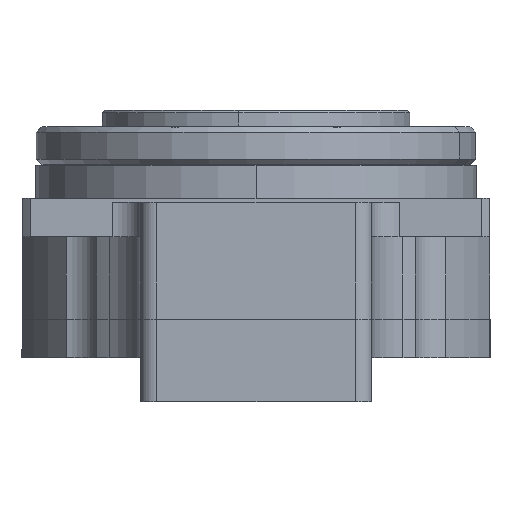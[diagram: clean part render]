
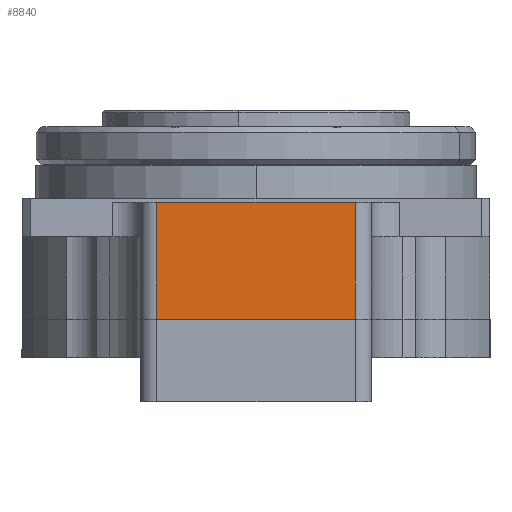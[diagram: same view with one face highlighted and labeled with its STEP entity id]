
A CAD part, left-side view. The second image highlights one B-rep face of the part: STEP entity #8840.
In plain terms, the highlighted planar face has unit normal (-1, 0, 0).
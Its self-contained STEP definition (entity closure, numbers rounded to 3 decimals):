
#684 = VERTEX_POINT ( 'NONE', #18039 ) ;
#685 = VERTEX_POINT ( 'NONE', #18040 ) ;
#690 = VERTEX_POINT ( 'NONE', #18045 ) ;
#691 = VERTEX_POINT ( 'NONE', #18046 ) ;
#1020 = EDGE_LOOP ( 'NONE', ( #8617, #8619, #8620, #8621 ) ) ;
#8617 = ORIENTED_EDGE ( 'NONE', *, *, #8874, .T. ) ;
#8619 = ORIENTED_EDGE ( 'NONE', *, *, #8866, .T. ) ;
#8620 = ORIENTED_EDGE ( 'NONE', *, *, #8876, .T. ) ;
#8621 = ORIENTED_EDGE ( 'NONE', *, *, #8878, .F. ) ;
#8840 = ADVANCED_FACE ( 'NONE', ( #37166 ), #38175, .T. ) ;
#8866 = EDGE_CURVE ( 'NONE', #685, #684, #38258, .T. ) ;
#8874 = EDGE_CURVE ( 'NONE', #690, #685, #38282, .T. ) ;
#8876 = EDGE_CURVE ( 'NONE', #684, #691, #38288, .T. ) ;
#8878 = EDGE_CURVE ( 'NONE', #690, #691, #38294, .T. ) ;
#18039 = CARTESIAN_POINT ( 'NONE',  ( -76.04, 18., -0.75 ) ) ;
#18040 = CARTESIAN_POINT ( 'NONE',  ( -76.04, -18., -0.75 ) ) ;
#18045 = CARTESIAN_POINT ( 'NONE',  ( -76.04, -18., -22. ) ) ;
#18046 = CARTESIAN_POINT ( 'NONE',  ( -76.04, 18., -22. ) ) ;
#37166 = FACE_OUTER_BOUND ( 'NONE', #1020, .T. ) ;
#37172 = AXIS2_PLACEMENT_3D ( 'NONE', #38176, #38177, #38178 ) ;
#37219 = VECTOR ( 'NONE', #38260, 1000. ) ;
#37227 = VECTOR ( 'NONE', #38284, 1000. ) ;
#37228 = VECTOR ( 'NONE', #38290, 1000. ) ;
#37231 = VECTOR ( 'NONE', #38296, 1000. ) ;
#38175 = PLANE ( 'NONE',  #37172 ) ;
#38176 = CARTESIAN_POINT ( 'NONE',  ( -76.04, 21., 13. ) ) ;
#38177 = DIRECTION ( 'NONE',  ( -1., 0., 0. ) ) ;
#38178 = DIRECTION ( 'NONE',  ( 0., 0., 1. ) ) ;
#38258 = LINE ( 'NONE', #38259, #37219 ) ;
#38259 = CARTESIAN_POINT ( 'NONE',  ( -76.04, 21., -0.75 ) ) ;
#38260 = DIRECTION ( 'NONE',  ( 0., 1., 0. ) ) ;
#38282 = LINE ( 'NONE', #38283, #37227 ) ;
#38283 = CARTESIAN_POINT ( 'NONE',  ( -76.04, -18., 13. ) ) ;
#38284 = DIRECTION ( 'NONE',  ( 0., 0., 1. ) ) ;
#38288 = LINE ( 'NONE', #38289, #37228 ) ;
#38289 = CARTESIAN_POINT ( 'NONE',  ( -76.04, 18., 13. ) ) ;
#38290 = DIRECTION ( 'NONE',  ( 0., 0., -1. ) ) ;
#38294 = LINE ( 'NONE', #38295, #37231 ) ;
#38295 = CARTESIAN_POINT ( 'NONE',  ( -76.04, -18., -22. ) ) ;
#38296 = DIRECTION ( 'NONE',  ( 0., 1., 0. ) ) ;
